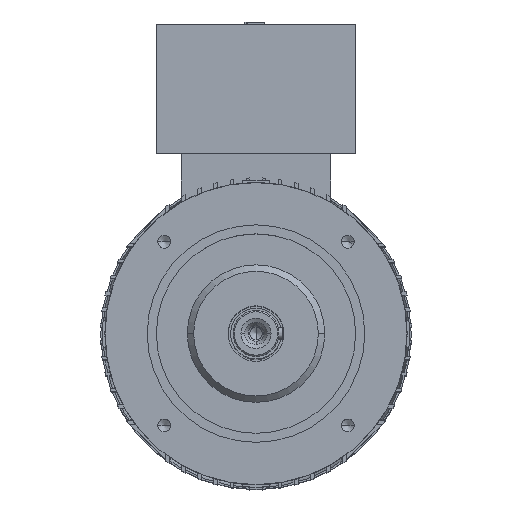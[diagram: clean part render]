
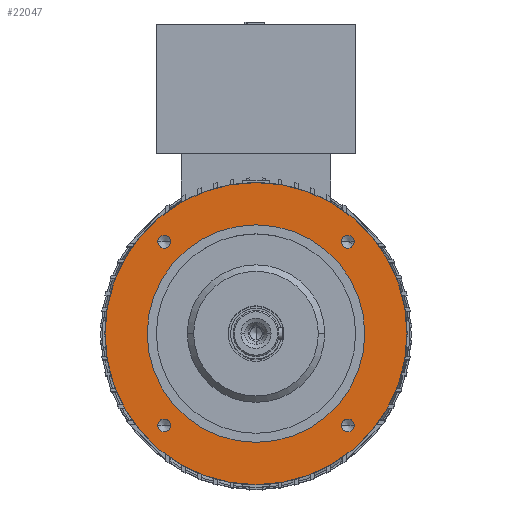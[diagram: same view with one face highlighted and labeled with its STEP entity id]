
A CAD part, top view. The second image highlights one B-rep face of the part: STEP entity #22047.
In plain terms, the highlighted planar face has unit normal (0, 0, 1).
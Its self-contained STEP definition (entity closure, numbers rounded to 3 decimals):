
#712 = AXIS2_PLACEMENT_3D ( 'NONE', #22414, #27677, #21930 ) ;
#928 = FACE_BOUND ( 'NONE', #31064, .T. ) ;
#1391 = CIRCLE ( 'NONE', #3287, 5.25 ) ;
#1573 = EDGE_CURVE ( 'NONE', #24361, #15814, #9989, .T. ) ;
#2167 = DIRECTION ( 'NONE',  ( 1., 0., 0. ) ) ;
#2343 = DIRECTION ( 'NONE',  ( 0., 0., 1. ) ) ;
#2640 = DIRECTION ( 'NONE',  ( 1., 0., 0. ) ) ;
#2700 = EDGE_CURVE ( 'NONE', #15325, #21252, #9450, .T. ) ;
#2964 = AXIS2_PLACEMENT_3D ( 'NONE', #16411, #36236, #4883 ) ;
#3087 = VERTEX_POINT ( 'NONE', #19977 ) ;
#3287 = AXIS2_PLACEMENT_3D ( 'NONE', #25301, #25413, #11145 ) ;
#3423 = DIRECTION ( 'NONE',  ( -1., 0., 0. ) ) ;
#3427 = CARTESIAN_POINT ( 'NONE',  ( -125., 0., 178. ) ) ;
#3456 = CIRCLE ( 'NONE', #31184, 5.25 ) ;
#3776 = AXIS2_PLACEMENT_3D ( 'NONE', #19364, #2343, #10954 ) ;
#4782 = ORIENTED_EDGE ( 'NONE', *, *, #8704, .F. ) ;
#4883 = DIRECTION ( 'NONE',  ( 1., 0., 0. ) ) ;
#4962 = EDGE_LOOP ( 'NONE', ( #27330, #10844 ) ) ;
#5249 = CARTESIAN_POINT ( 'NONE',  ( -76.014, 76.014, 178. ) ) ;
#5319 = CIRCLE ( 'NONE', #11851, 5.25 ) ;
#7750 = CARTESIAN_POINT ( 'NONE',  ( -81.264, -76.014, 178. ) ) ;
#7839 = CARTESIAN_POINT ( 'NONE',  ( -76.014, -76.014, 178. ) ) ;
#8049 = CARTESIAN_POINT ( 'NONE',  ( -90., 0., 178. ) ) ;
#8505 = DIRECTION ( 'NONE',  ( 0., 0., 1. ) ) ;
#8704 = EDGE_CURVE ( 'NONE', #9105, #35571, #5319, .T. ) ;
#9105 = VERTEX_POINT ( 'NONE', #24800 ) ;
#9450 = CIRCLE ( 'NONE', #11811, 125. ) ;
#9812 = DIRECTION ( 'NONE',  ( 1., 0., 0. ) ) ;
#9989 = CIRCLE ( 'NONE', #13634, 90. ) ;
#10797 = ORIENTED_EDGE ( 'NONE', *, *, #34291, .F. ) ;
#10844 = ORIENTED_EDGE ( 'NONE', *, *, #22897, .F. ) ;
#10954 = DIRECTION ( 'NONE',  ( -1., 0., 0. ) ) ;
#11145 = DIRECTION ( 'NONE',  ( 1., 0., 0. ) ) ;
#11423 = ORIENTED_EDGE ( 'NONE', *, *, #18093, .F. ) ;
#11716 = ORIENTED_EDGE ( 'NONE', *, *, #22084, .F. ) ;
#11748 = CARTESIAN_POINT ( 'NONE',  ( 76.014, -76.014, 178. ) ) ;
#11811 = AXIS2_PLACEMENT_3D ( 'NONE', #29074, #34688, #17607 ) ;
#11851 = AXIS2_PLACEMENT_3D ( 'NONE', #16361, #36311, #33701 ) ;
#12039 = FACE_BOUND ( 'NONE', #23377, .T. ) ;
#13475 = VERTEX_POINT ( 'NONE', #35537 ) ;
#13634 = AXIS2_PLACEMENT_3D ( 'NONE', #31516, #34273, #3423 ) ;
#13963 = DIRECTION ( 'NONE',  ( 0., 0., 1. ) ) ;
#14018 = CARTESIAN_POINT ( 'NONE',  ( 0., 0., 178. ) ) ;
#14192 = EDGE_CURVE ( 'NONE', #34795, #3087, #28114, .T. ) ;
#14265 = FACE_BOUND ( 'NONE', #20113, .T. ) ;
#14744 = AXIS2_PLACEMENT_3D ( 'NONE', #27791, #13963, #2167 ) ;
#15325 = VERTEX_POINT ( 'NONE', #16322 ) ;
#15814 = VERTEX_POINT ( 'NONE', #8049 ) ;
#16322 = CARTESIAN_POINT ( 'NONE',  ( 125., 0., 178. ) ) ;
#16361 = CARTESIAN_POINT ( 'NONE',  ( 76.014, 76.014, 178. ) ) ;
#16411 = CARTESIAN_POINT ( 'NONE',  ( 76.014, -76.014, 178. ) ) ;
#17023 = EDGE_LOOP ( 'NONE', ( #10797, #26283 ) ) ;
#17312 = CARTESIAN_POINT ( 'NONE',  ( 70.764, 76.014, 178. ) ) ;
#17607 = DIRECTION ( 'NONE',  ( -1., 0., 0. ) ) ;
#17614 = VERTEX_POINT ( 'NONE', #25196 ) ;
#17764 = AXIS2_PLACEMENT_3D ( 'NONE', #14018, #36549, #22577 ) ;
#18093 = EDGE_CURVE ( 'NONE', #3087, #34795, #22511, .T. ) ;
#18722 = DIRECTION ( 'NONE',  ( -1., 0., 0. ) ) ;
#19364 = CARTESIAN_POINT ( 'NONE',  ( 0., 0., 178. ) ) ;
#19460 = VERTEX_POINT ( 'NONE', #30817 ) ;
#19515 = DIRECTION ( 'NONE',  ( 0., 0., 1. ) ) ;
#19536 = CIRCLE ( 'NONE', #712, 5.25 ) ;
#19977 = CARTESIAN_POINT ( 'NONE',  ( -70.764, 76.014, 178. ) ) ;
#20113 = EDGE_LOOP ( 'NONE', ( #11423, #26183 ) ) ;
#20597 = EDGE_CURVE ( 'NONE', #17614, #19460, #35694, .T. ) ;
#21252 = VERTEX_POINT ( 'NONE', #3427 ) ;
#21930 = DIRECTION ( 'NONE',  ( 1., 0., 0. ) ) ;
#22047 = ADVANCED_FACE ( 'NONE', ( #14265, #928, #33419, #35661, #25802, #12039 ), #36182, .F. ) ;
#22084 = EDGE_CURVE ( 'NONE', #21252, #15325, #25378, .T. ) ;
#22144 = ORIENTED_EDGE ( 'NONE', *, *, #2700, .F. ) ;
#22414 = CARTESIAN_POINT ( 'NONE',  ( -76.014, -76.014, 178. ) ) ;
#22511 = CIRCLE ( 'NONE', #14744, 5.25 ) ;
#22577 = DIRECTION ( 'NONE',  ( -1., 0., 0. ) ) ;
#22897 = EDGE_CURVE ( 'NONE', #19460, #17614, #23942, .T. ) ;
#23333 = EDGE_LOOP ( 'NONE', ( #11716, #22144 ) ) ;
#23377 = EDGE_LOOP ( 'NONE', ( #31261, #36829 ) ) ;
#23747 = EDGE_CURVE ( 'NONE', #30460, #13475, #3456, .T. ) ;
#23942 = CIRCLE ( 'NONE', #30921, 5.25 ) ;
#24155 = AXIS2_PLACEMENT_3D ( 'NONE', #5249, #19515, #2640 ) ;
#24361 = VERTEX_POINT ( 'NONE', #25179 ) ;
#24677 = AXIS2_PLACEMENT_3D ( 'NONE', #32840, #30345, #18722 ) ;
#24800 = CARTESIAN_POINT ( 'NONE',  ( 81.264, 76.014, 178. ) ) ;
#25144 = CIRCLE ( 'NONE', #3776, 90. ) ;
#25179 = CARTESIAN_POINT ( 'NONE',  ( 90., 0., 178. ) ) ;
#25196 = CARTESIAN_POINT ( 'NONE',  ( 81.264, -76.014, 178. ) ) ;
#25301 = CARTESIAN_POINT ( 'NONE',  ( 76.014, 76.014, 178. ) ) ;
#25378 = CIRCLE ( 'NONE', #17764, 125. ) ;
#25413 = DIRECTION ( 'NONE',  ( 0., 0., 1. ) ) ;
#25802 = FACE_OUTER_BOUND ( 'NONE', #23333, .T. ) ;
#26183 = ORIENTED_EDGE ( 'NONE', *, *, #14192, .F. ) ;
#26283 = ORIENTED_EDGE ( 'NONE', *, *, #23747, .F. ) ;
#26783 = CARTESIAN_POINT ( 'NONE',  ( -81.264, 76.014, 178. ) ) ;
#27330 = ORIENTED_EDGE ( 'NONE', *, *, #20597, .F. ) ;
#27499 = DIRECTION ( 'NONE',  ( 0., 0., 1. ) ) ;
#27677 = DIRECTION ( 'NONE',  ( 0., 0., 1. ) ) ;
#27791 = CARTESIAN_POINT ( 'NONE',  ( -76.014, 76.014, 178. ) ) ;
#28100 = EDGE_CURVE ( 'NONE', #35571, #9105, #1391, .T. ) ;
#28114 = CIRCLE ( 'NONE', #24155, 5.25 ) ;
#28391 = EDGE_CURVE ( 'NONE', #15814, #24361, #25144, .T. ) ;
#29074 = CARTESIAN_POINT ( 'NONE',  ( 0., 0., 178. ) ) ;
#30345 = DIRECTION ( 'NONE',  ( 0., 0., -1. ) ) ;
#30460 = VERTEX_POINT ( 'NONE', #7750 ) ;
#30817 = CARTESIAN_POINT ( 'NONE',  ( 70.764, -76.014, 178. ) ) ;
#30921 = AXIS2_PLACEMENT_3D ( 'NONE', #11748, #8505, #31663 ) ;
#31064 = EDGE_LOOP ( 'NONE', ( #4782, #31994 ) ) ;
#31184 = AXIS2_PLACEMENT_3D ( 'NONE', #7839, #27499, #9812 ) ;
#31261 = ORIENTED_EDGE ( 'NONE', *, *, #28391, .F. ) ;
#31516 = CARTESIAN_POINT ( 'NONE',  ( 0., 0., 178. ) ) ;
#31663 = DIRECTION ( 'NONE',  ( 1., 0., 0. ) ) ;
#31994 = ORIENTED_EDGE ( 'NONE', *, *, #28100, .F. ) ;
#32840 = CARTESIAN_POINT ( 'NONE',  ( 0., 0., 178. ) ) ;
#33419 = FACE_BOUND ( 'NONE', #4962, .T. ) ;
#33701 = DIRECTION ( 'NONE',  ( 1., 0., 0. ) ) ;
#34273 = DIRECTION ( 'NONE',  ( 0., 0., 1. ) ) ;
#34291 = EDGE_CURVE ( 'NONE', #13475, #30460, #19536, .T. ) ;
#34688 = DIRECTION ( 'NONE',  ( 0., 0., -1. ) ) ;
#34795 = VERTEX_POINT ( 'NONE', #26783 ) ;
#35537 = CARTESIAN_POINT ( 'NONE',  ( -70.764, -76.014, 178. ) ) ;
#35571 = VERTEX_POINT ( 'NONE', #17312 ) ;
#35661 = FACE_BOUND ( 'NONE', #17023, .T. ) ;
#35694 = CIRCLE ( 'NONE', #2964, 5.25 ) ;
#36182 = PLANE ( 'NONE',  #24677 ) ;
#36236 = DIRECTION ( 'NONE',  ( 0., 0., 1. ) ) ;
#36311 = DIRECTION ( 'NONE',  ( 0., 0., 1. ) ) ;
#36549 = DIRECTION ( 'NONE',  ( 0., 0., -1. ) ) ;
#36829 = ORIENTED_EDGE ( 'NONE', *, *, #1573, .F. ) ;
